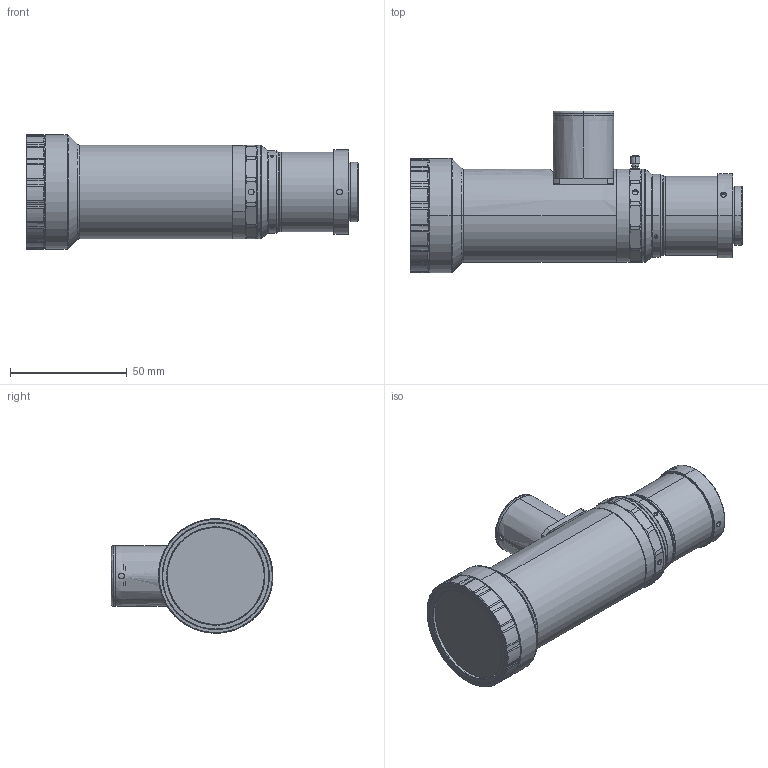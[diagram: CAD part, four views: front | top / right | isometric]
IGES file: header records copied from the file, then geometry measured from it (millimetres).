
Start section: SolidWorks IGES file using analytic representation for surfaces
Global section: file name: C:\Users\gc\Desktop\未完成工作堆放区\DTCA小倍率\DTCA121-22.2\发客户3D\DTCA121-22.2CL.IGS,15HSolidWorks; native system: 2017; preprocessor: SolidWorks 2017; author: gc; date: 240112.162353; units: millimetre
Bounding box: 142.1 x 69.3 x 49 mm (x, y, z)
Surface area: 34598.7 mm2 (no closed solid volume)
Topology: 0 solids, 0 shells, 434 faces, 6135 edges, 6119 vertices
Faces by surface type: revolution 349, bspline 85
